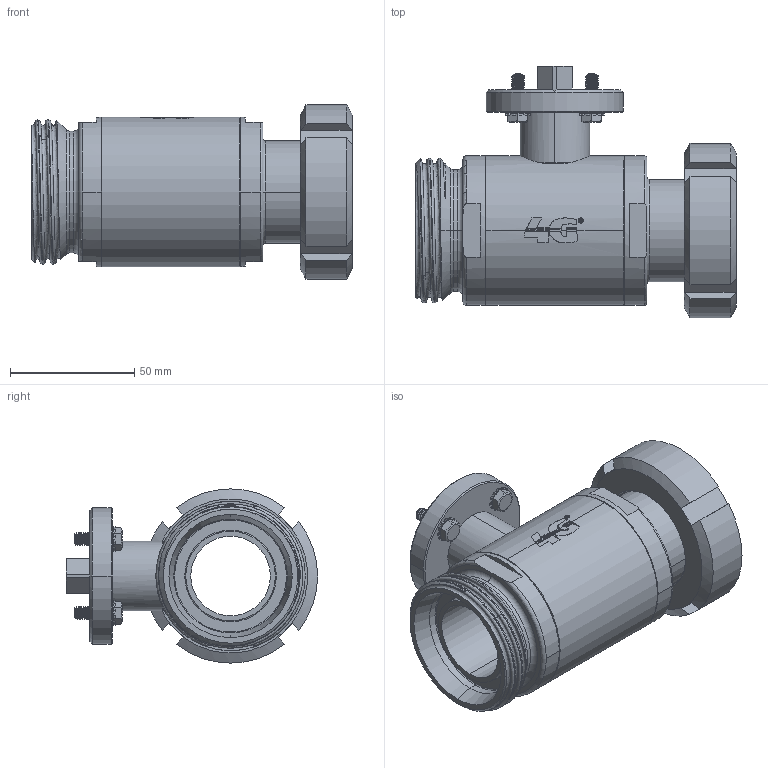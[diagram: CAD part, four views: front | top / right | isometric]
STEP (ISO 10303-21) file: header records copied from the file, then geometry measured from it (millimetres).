
FILE_DESCRIPTION((''),'2;1');
FILE_NAME('10302663010','2017-10-04T',('UFFICIO TECNICO'),('CDM Tecnoconsulting'),'CREO PARAMETRIC BY PTC INC, 2015290','CREO PARAMETRIC BY PTC INC, 2015290','');
FILE_SCHEMA(('CONFIG_CONTROL_DESIGN'));
Products named in the file (1): 10302663010
Bounding box: 129 x 101 x 70 mm (x, y, z)
Volume: 229191.3 mm3; surface area: 90305.9 mm2
Topology: 1 solids, 4 shells, 1327 faces, 3828 edges, 2441 vertices
Faces by surface type: plane 457, cylinder 400, cone 191, bspline 131, torus 88, extrusion 56, sphere 4
Entity records: 106664 total; most frequent: CARTESIAN_POINT 65133, ORIENTED_EDGE 7644, DIRECTION 5778, EDGE_CURVE 3822, VERTEX_POINT 2441, AXIS2_PLACEMENT_3D 2110, VECTOR 1558, LINE 1502
